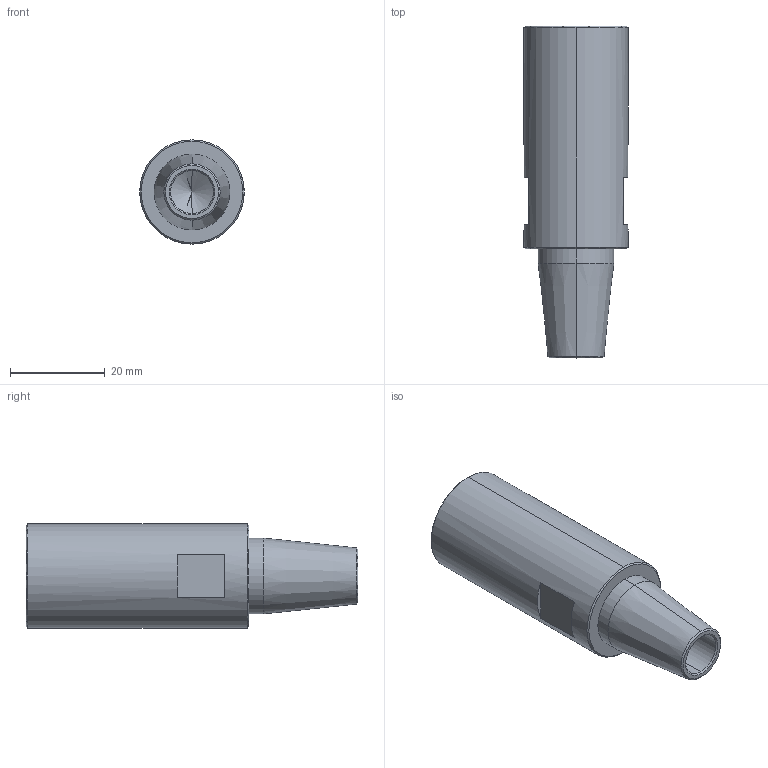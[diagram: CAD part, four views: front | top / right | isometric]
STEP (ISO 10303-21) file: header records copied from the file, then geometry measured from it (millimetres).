
FILE_DESCRIPTION (( 'STEP AP203' ), '1' );
FILE_NAME ('SW-PN-D10-3.STEP', '2022-03-28T06:44:52', ( '' ), ( '' ), 'SwSTEP 2.0', 'SolidWorks 2015', '' );
FILE_SCHEMA (( 'CONFIG_CONTROL_DESIGN' ));
Length unit declared in the file: millimetre
Products named in the file (2): SW-PN-D10-3
Bounding box: 22 x 70 x 22 mm (x, y, z)
Volume: 17141.2 mm3; surface area: 6707 mm2
Topology: 1 solids, 1 shells, 33 faces, 68 edges, 38 vertices
Faces by surface type: cone 16, plane 9, cylinder 8
Entity records: 993 total; most frequent: DIRECTION 166, CARTESIAN_POINT 137, ORIENTED_EDGE 128, AXIS2_PLACEMENT_3D 67, EDGE_CURVE 64, EDGE_LOOP 38, VERTEX_POINT 38, FACE_OUTER_BOUND 33
